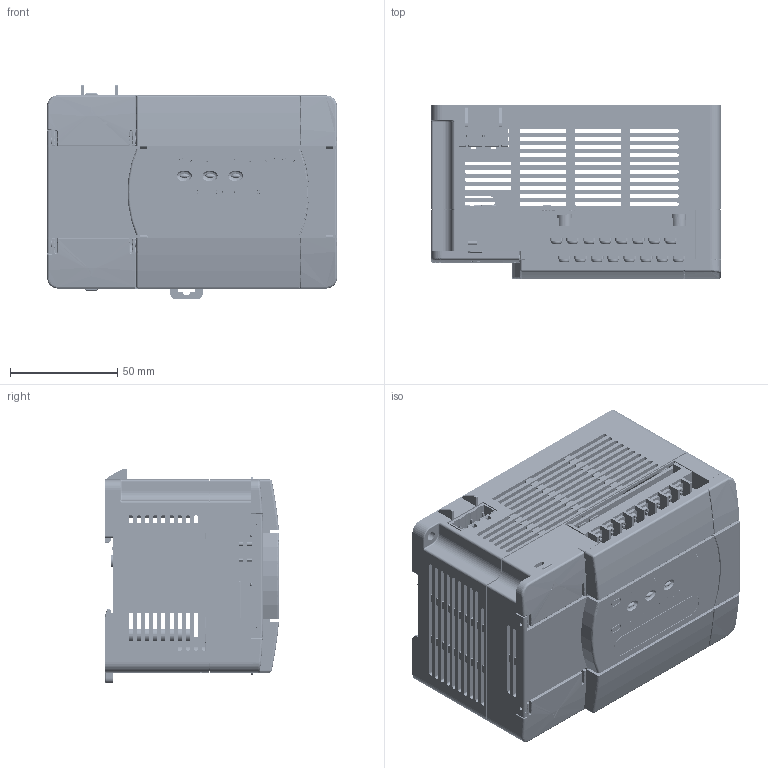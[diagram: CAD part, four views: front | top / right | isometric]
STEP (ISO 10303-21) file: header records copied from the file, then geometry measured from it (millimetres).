
FILE_DESCRIPTION((''),'2;1');
FILE_NAME('IVC1-1410MAR_ASM_ASM','2022-11-08T16:37:55',('Administrator'),(''),'CREO PARAMETRIC BY PTC INC, 2019080','CREO PARAMETRIC BY PTC INC, 2019080','');
FILE_SCHEMA(('CONFIG_CONTROL_DESIGN'));
Products named in the file (62): 80740064_2; 80740064SY1_ASM_1_ASM; 80880052_1; 40810019_ASM_1_ASM; 80740065_2; 80740065SY1_ASM_1_ASM; 80880062_2; 80880063_2; 80880050_2; 80880053_1; 80880055_2; 86400010_1; 86400007_2; 86400009_1; 40810020_ASM_1_ASM; 1410_1; E-SC0603_2; E-SOP4-100-173_2; E-SD0805_2; E-SR0603_2; E-SR1210_2; E-SC0805_2; E-SR0805_2; E-DSW5-H_2; E-PSW6-80T_2; E-SR1206_2; E-SC1206A_2; E-SR2010_2; E-SX2-1205_2; E-SC1210_2; E-SOP5-50-173_2; E-X2-80-W-B_2; E-SOT23-1A_2; E-SF3518_2; E-HEAD0102-1_5-T_1; E-RLY7-100-140_2; E-SL1307_2; E-SOP14-26-170_2; E-SOP16-50-157_2; E-SCD6_3X5_7_2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
Assembly tree (463 placements, depth 5):
  IVC1-1410MAR_ASM_ASM
    IVC1-1410MAR_ASM_3_ASM
      40810019_ASM_1_ASM
        80740064SY1_ASM_1_ASM
          80740064_2
        80880052_1
      40810020_ASM_1_ASM
        80740065SY1_ASM_1_ASM
          80740065_2
        80880062_2
        80880063_2
        80880050_2
        80880053_1
        80880055_2
        86400010_1  x2
        86400007_2
        86400009_1
      1410_ASM_1_ASM
        1410_1
        E-SC0603_2  x111
        E-SOP4-100-173_2  x12
        E-SD0805_2  x27
        E-SR0603_2  x161
        E-SR1210_2
        E-SC0805_2  x8
        E-SR0805_2  x8
        E-DSW5-H_2
        E-PSW6-80T_2
        E-SR1206_2  x31
        E-SC1206A_2  x4
        E-SR2010_2  x4
        E-SX2-1205_2
        E-SC1210_2
        E-SOP5-50-173_2  x2
        E-X2-80-W-B_2
        E-SOT23-1A_2  x2
        E-SF3518_2  x4
        E-HEAD0102-1_5-T_1
        E-RLY7-100-140_2  x10
        E-SL1307_2  x2
        E-SOP14-26-170_2  x5
        E-SOP16-50-157_2  x2
        E-SCD6_3X5_7_2  x2
        E-IDC14-OTM_2
        E-HEAD0108-TA_2
        E-TB0208-300-365-TM_1  x2
        E-HEAD0207-TB_2
        E-PS2-10PIN_2
        E-DIN0105-5_08MM-TM_2
        E-SD2216_2  x6
        E-SOT-DPAK_2
        E-SOT23_2  x10
        E-SL0805_1  x4
        E-SOP8-50-157_2  x2
        E-QFP100-050-1414L_2
        E-SOP8-50-157A_2  x3
        E-SP-SMD60_2  x3
        E-SOP20-26-173_2
        E-SOP16-26-180_2
        E-SBAT2-R6_8MM_2
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Bounding box: 135 x 81.3 x 100 mm (x, y, z)
Volume: 215027.6 mm3; surface area: 229816 mm2
Topology: 456 solids, 465 shells, 23055 faces, 60300 edges, 37847 vertices
Faces by surface type: plane 14851, cylinder 6171, sphere 1200, torus 510, cone 219, bspline 70, extrusion 28, revolution 6
Entity records: 281622 total; most frequent: CARTESIAN_POINT 57771, ORIENTED_EDGE 46866, DIRECTION 46141, EDGE_CURVE 23446, VECTOR 17391, LINE 17363, VERTEX_POINT 15346, AXIS2_PLACEMENT_3D 14372
